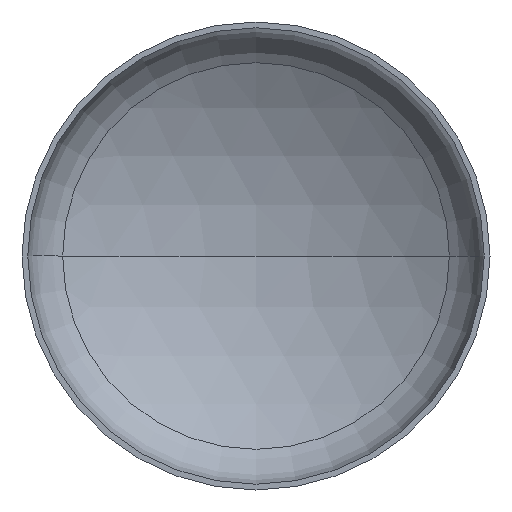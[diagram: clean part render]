
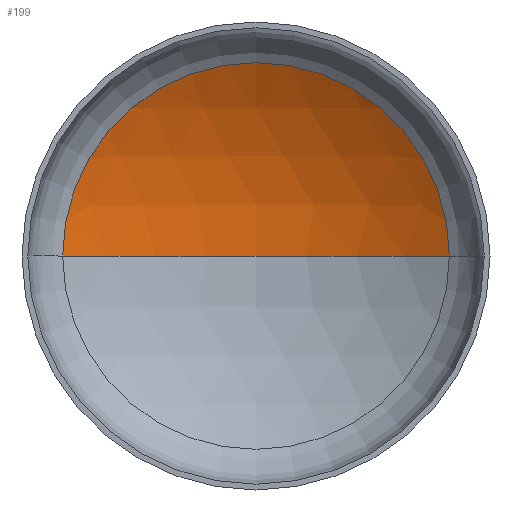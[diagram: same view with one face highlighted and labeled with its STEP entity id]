
A CAD part, front view. The second image highlights one B-rep face of the part: STEP entity #199.
In plain terms, the highlighted spherical face has radius 4000 mm.
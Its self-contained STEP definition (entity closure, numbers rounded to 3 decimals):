
#24 = AXIS2_PLACEMENT_3D ( 'NONE', #229, #378, #251 ) ;
#50 = ORIENTED_EDGE ( 'NONE', *, *, #186, .T. ) ;
#55 = VERTEX_POINT ( 'NONE', #177 ) ;
#69 = AXIS2_PLACEMENT_3D ( 'NONE', #87, #269, #163 ) ;
#80 = ORIENTED_EDGE ( 'NONE', *, *, #161, .T. ) ;
#81 = AXIS2_PLACEMENT_3D ( 'NONE', #283, #304, #298 ) ;
#82 = AXIS2_PLACEMENT_3D ( 'NONE', #159, #111, #108 ) ;
#87 = CARTESIAN_POINT ( 'NONE',  ( 0., -2645.986, 0. ) ) ;
#89 = ORIENTED_EDGE ( 'NONE', *, *, #369, .F. ) ;
#108 = DIRECTION ( 'NONE',  ( 1., 0., 0. ) ) ;
#111 = DIRECTION ( 'NONE',  ( 0., -1., 0. ) ) ;
#124 = VERTEX_POINT ( 'NONE', #230 ) ;
#143 = VERTEX_POINT ( 'NONE', #293 ) ;
#159 = CARTESIAN_POINT ( 'NONE',  ( 0., 779.384, 0. ) ) ;
#161 = EDGE_CURVE ( 'NONE', #55, #143, #300, .T. ) ;
#163 = DIRECTION ( 'NONE',  ( -1., 0., 0. ) ) ;
#177 = CARTESIAN_POINT ( 'NONE',  ( 2065.635, 779.384, 0. ) ) ;
#186 = EDGE_CURVE ( 'NONE', #124, #55, #236, .T. ) ;
#199 = ADVANCED_FACE ( 'NONE', ( #238 ), #352, .F. ) ;
#202 = CIRCLE ( 'NONE', #24, 4000. ) ;
#229 = CARTESIAN_POINT ( 'NONE',  ( 0., -2645.986, 0. ) ) ;
#230 = CARTESIAN_POINT ( 'NONE',  ( 0., 1354.014, 0. ) ) ;
#236 = CIRCLE ( 'NONE', #81, 4000. ) ;
#238 = FACE_OUTER_BOUND ( 'NONE', #266, .T. ) ;
#251 = DIRECTION ( 'NONE',  ( 1., 0., 0. ) ) ;
#266 = EDGE_LOOP ( 'NONE', ( #89, #50, #80 ) ) ;
#269 = DIRECTION ( 'NONE',  ( 0., 0., -1. ) ) ;
#283 = CARTESIAN_POINT ( 'NONE',  ( 0., -2645.986, 0. ) ) ;
#293 = CARTESIAN_POINT ( 'NONE',  ( -2065.635, 779.384, 0. ) ) ;
#298 = DIRECTION ( 'NONE',  ( -1., 0., 0. ) ) ;
#300 = CIRCLE ( 'NONE', #82, 2065.635 ) ;
#304 = DIRECTION ( 'NONE',  ( 0., 0., -1. ) ) ;
#352 = SPHERICAL_SURFACE ( 'NONE', #69, 4000. ) ;
#369 = EDGE_CURVE ( 'NONE', #124, #143, #202, .T. ) ;
#378 = DIRECTION ( 'NONE',  ( 0., 0., 1. ) ) ;
